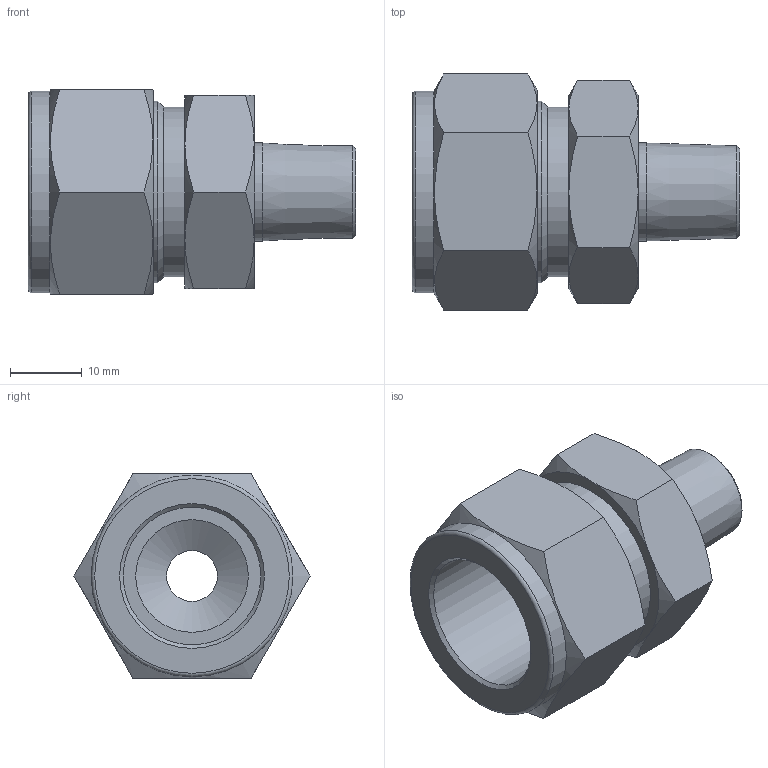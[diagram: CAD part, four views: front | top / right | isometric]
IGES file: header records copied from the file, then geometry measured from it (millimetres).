
Global section: file name: No Iges File Name specified; native system: Autodesk Inventor 2012; preprocessor: AutoDesk Inventor Iges Exporter R2012; author: 硅己绕,, ; organization: 11; date: 20150603.093234; units: millimetre
Bounding box: 45.77 x 33 x 28.57 mm (x, y, z)
Volume: 13677.5 mm3; surface area: 6984 mm2
Topology: 1 solids, 1 shells, 47 faces, 97 edges, 57 vertices
Faces by surface type: plane 19, cone 17, revolution 6, cylinder 4, torus 1
Full cylindrical faces by diameter (mm): 13.7 x1, 23.7 x1, 25.4 x1, 28.2 x1
